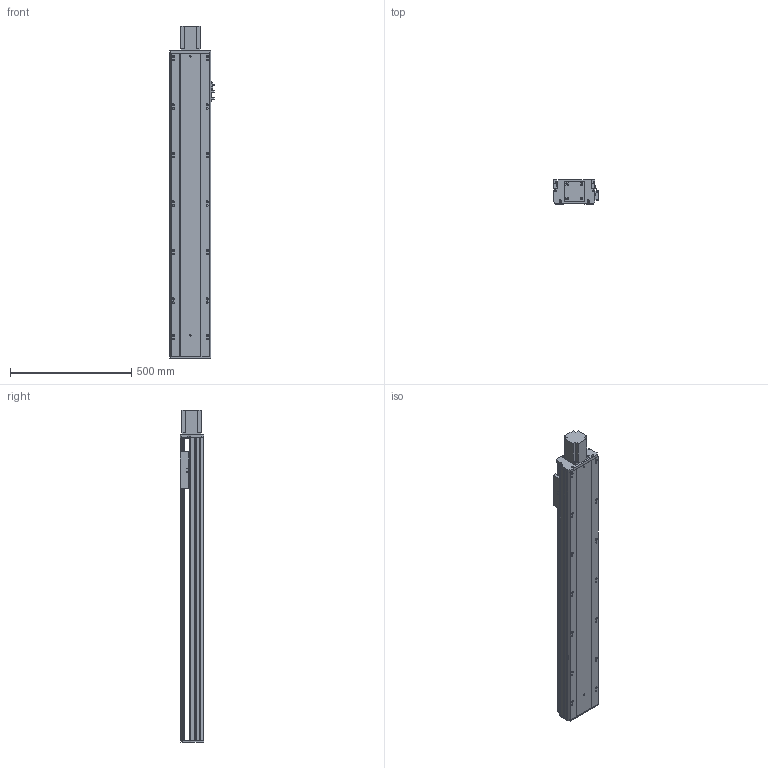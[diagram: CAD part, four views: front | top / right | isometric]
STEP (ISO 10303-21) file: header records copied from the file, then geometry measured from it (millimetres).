
FILE_DESCRIPTION (( 'STEP AP203' ), '1' );
FILE_NAME ('Y170-D10-S1000-BD-P750W.STEP', '2020-01-22T07:04:50', ( '微软用户' ), ( '微软中国' ), 'SwSTEP 2.0', 'SolidWorks 2017', '' );
FILE_SCHEMA (( 'CONFIG_CONTROL_DESIGN' ));
Length unit declared in the file: millimetre
Products named in the file (10): Y170-陔遴奻裔-BD; Y170--雄赽釱-梓--; YD-Y100-135-新外置传感挡片(通用）; Y170-D10-S1000-BD-P750W; Y100-135俋离換覜ん; 170--掛极-BD; Y170-萇儂楊擘啣--; 135-盓傅釱-FK15; 侂狟750W; Y170耜裔--準---
Assembly tree (11 placements, depth 2):
  Y170-D10-S1000-BD-P750W
    YD-Y100-135-新外置传感挡片(通用）
    Y100-135俋离換覜ん  x3
    170--掛极-BD
    Y170-萇儂楊擘啣--
    135-盓傅釱-FK15
    侂狟750W
    Y170耜裔--準---
    Y170-陔遴奻裔-BD
    Y170--雄赽釱-梓--
Bounding box: 183.5 x 97 x 1368.5 mm (x, y, z)
Volume: 5850020.9 mm3; surface area: 1973473.9 mm2
Topology: 11 solids, 11 shells, 828 faces, 2355 edges, 1560 vertices
Faces by surface type: cylinder 438, plane 388, torus 2
Entity records: 26991 total; most frequent: CARTESIAN_POINT 4843, DIRECTION 4505, ORIENTED_EDGE 4374, EDGE_CURVE 2187, AXIS2_PLACEMENT_3D 1622, VERTEX_POINT 1448, VECTOR 1261, LINE 1261
